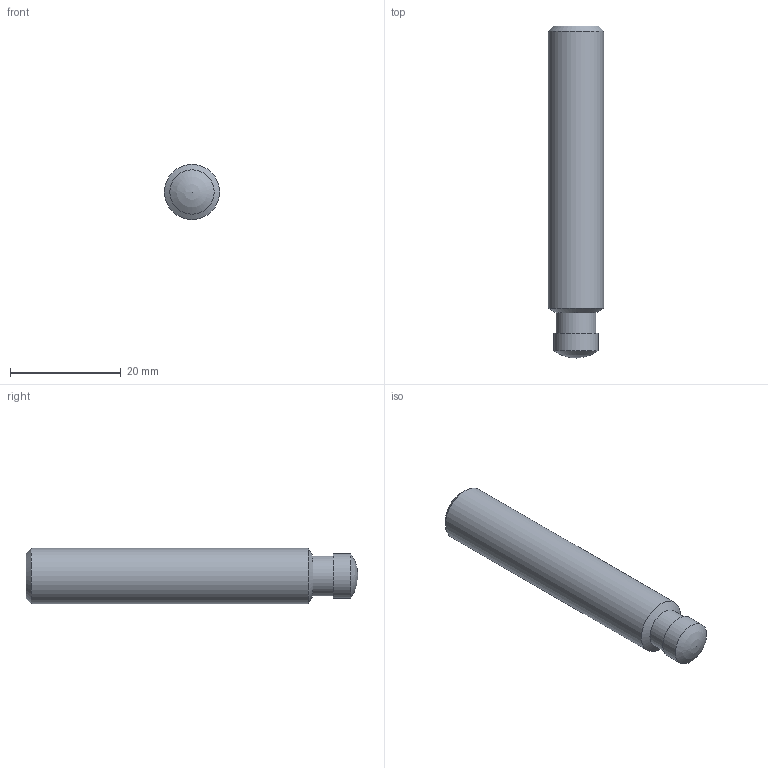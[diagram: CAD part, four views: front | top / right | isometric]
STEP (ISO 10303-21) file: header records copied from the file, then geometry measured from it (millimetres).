
FILE_DESCRIPTION( ( 'STEP AP203' ), '1' );
FILE_NAME( 'C:/Temp/Ganter_Step_05_03_2020/data/3_2/din6332/din6332_ni/Stainless Steel-Grub screw DIN 6332-M10-60-SKN-NI.stp', '2020-03-13T05:16:42', ( 'License CC BY-ND 4.0' ), ( 'CADENAS' ), ' ', 'PARTsolutions', ' ' );
FILE_SCHEMA( ( 'CONFIG_CONTROL_DESIGN' ) );
Length unit declared in the file: millimetre
Products named in the file (1): _Stainless Steel-Grub screw DIN 6332-M10-60-SKN-NI
Bounding box: 10 x 60 x 10 mm (x, y, z)
Volume: 4320.2 mm3; surface area: 1987.2 mm2
Topology: 1 solids, 1 shells, 15 faces, 33 edges, 21 vertices
Faces by surface type: plane 9, cylinder 3, cone 2, sphere 1
Full cylindrical faces by diameter (mm): 7.2 x1, 8 x1, 10 x1
Entity records: 410 total; most frequent: DIRECTION 64, CARTESIAN_POINT 61, ORIENTED_EDGE 50, EDGE_CURVE 25, AXIS2_PLACEMENT_3D 23, EDGE_LOOP 22, VERTEX_POINT 20, FACE_OUTER_BOUND 18
